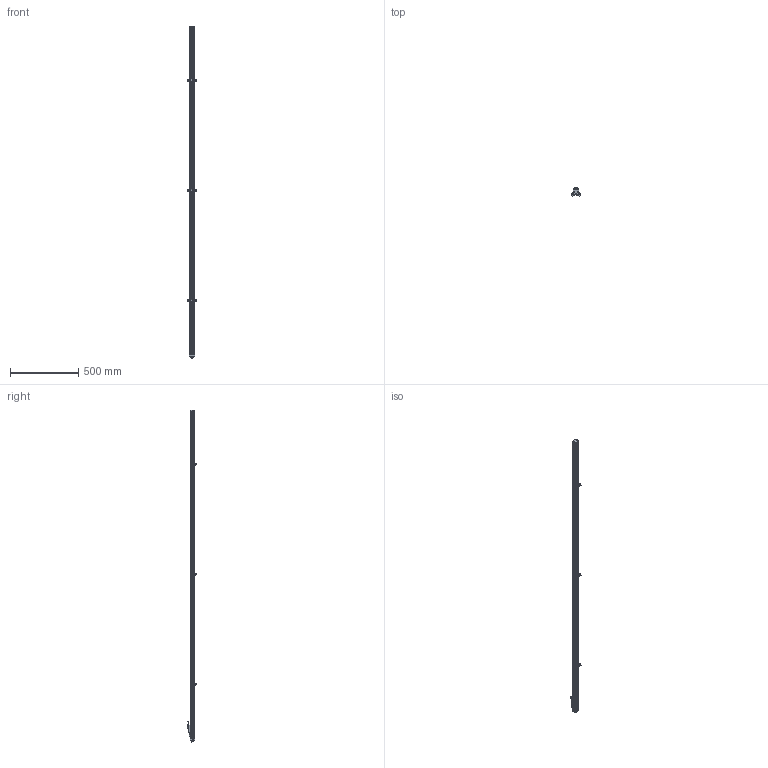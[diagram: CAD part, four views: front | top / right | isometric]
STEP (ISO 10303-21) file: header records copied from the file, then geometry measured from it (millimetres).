
FILE_DESCRIPTION (( 'STEP AP214' ), '1' );
FILE_NAME ('TLH_2250.STEP', '2010-05-06T10:48:37', ( 'novotechnik' ), ( 'novotechnik' ), 'SwSTEP 2.0', 'SolidWorks 2009', '' );
FILE_SCHEMA (( 'AUTOMOTIVE_DESIGN' ));
Length unit declared in the file: millimetre
Products named in the file (14): Stahlband_2250; Gehäuse_2250; TLH_2250; Flachdichtung; Steckerflansch; Endflansch; Kontaktblech_l; Gewindebuchse; Zyl.-Schraube_M3x16_Torx; Kupplungsbolzen; Deckel; Kontaktblech_U_abgewinkelt<Standard>; Zylinderschraube_M5x20; Spannklammer_schwarz_515341<Standard>
Assembly tree (26 placements, depth 2):
  TLH_2250
    Kontaktblech_U_abgewinkelt<Standard>  x3
    Zylinderschraube_M5x20  x6
    Zyl.-Schraube_M3x16_Torx  x4
    Deckel
    Gewindebuchse
    Gehäuse_2250
    Flachdichtung  x2
    Kupplungsbolzen
    Spannklammer_schwarz_515341<Standard>  x3
    Stahlband_2250
    Endflansch
    Kontaktblech_l
    Steckerflansch
Bounding box: 65 x 70.2 x 2430 mm (x, y, z)
Volume: 2682041.1 mm3; surface area: 585072.8 mm2
Topology: 26 solids, 26 shells, 1357 faces, 3640 edges, 2345 vertices
Faces by surface type: plane 664, cylinder 491, bspline 94, cone 64, torus 30, sphere 14
Entity records: 35036 total; most frequent: CARTESIAN_POINT 12477, ORIENTED_EDGE 4732, DIRECTION 4353, EDGE_CURVE 2366, VERTEX_POINT 1535, LINE 1469, VECTOR 1469, AXIS2_PLACEMENT_3D 1442
